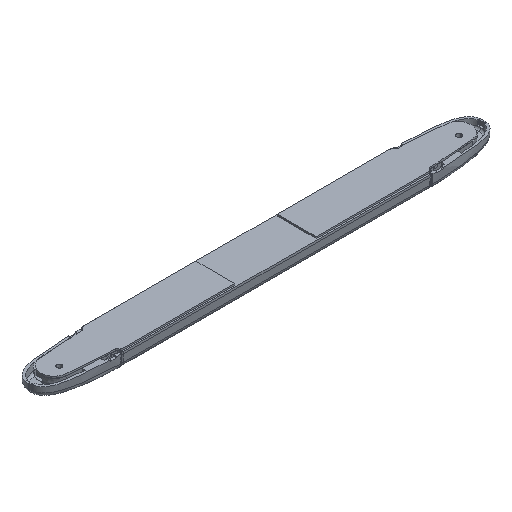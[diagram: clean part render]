
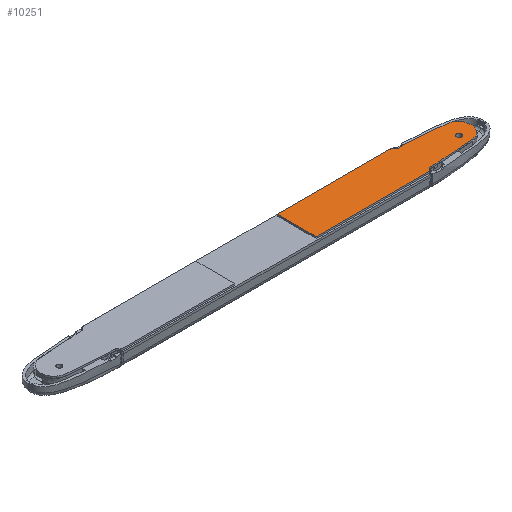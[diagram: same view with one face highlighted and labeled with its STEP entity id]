
A CAD part, isometric view. The second image highlights one B-rep face of the part: STEP entity #10251.
In plain terms, the highlighted planar face has unit normal (0, 0, 1).
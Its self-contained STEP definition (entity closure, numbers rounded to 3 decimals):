
#381=AXIS2_PLACEMENT_3D('Circle Axis2P3D',#379,#380,$) ;
#746=AXIS2_PLACEMENT_3D('Circle Axis2P3D',#744,#745,$) ;
#1078=AXIS2_PLACEMENT_3D('Circle Axis2P3D',#1076,#1077,$) ;
#1727=AXIS2_PLACEMENT_3D('Circle Axis2P3D',#1725,#1726,$) ;
#1758=AXIS2_PLACEMENT_3D('Circle Axis2P3D',#1756,#1757,$) ;
#1848=AXIS2_PLACEMENT_3D('Circle Axis2P3D',#1846,#1847,$) ;
#10206=AXIS2_PLACEMENT_3D('Plane Axis2P3D',#10203,#10204,#10205) ;
#297=CARTESIAN_POINT('Vertex',(101.4,9.953,-5.093)) ;
#300=CARTESIAN_POINT('Line Origine',(102.035,9.902,-5.093)) ;
#304=CARTESIAN_POINT('Vertex',(102.67,9.85,-5.093)) ;
#307=CARTESIAN_POINT('Line Origine',(113.785,8.949,-5.093)) ;
#311=CARTESIAN_POINT('Vertex',(124.9,8.047,-5.093)) ;
#345=CARTESIAN_POINT('Vertex',(97.315,9.953,-5.093)) ;
#348=CARTESIAN_POINT('Line Origine',(99.358,9.953,-5.093)) ;
#376=CARTESIAN_POINT('Vertex',(95.5,11.113,-5.093)) ;
#379=CARTESIAN_POINT('Axis2P3D Location',(97.315,11.953,-5.093)) ;
#736=CARTESIAN_POINT('Vertex',(132.321,0.,-5.093)) ;
#744=CARTESIAN_POINT('Axis2P3D Location',(124.247,0.,-5.093)) ;
#1073=CARTESIAN_POINT('Vertex',(94.139,11.983,-5.093)) ;
#1076=CARTESIAN_POINT('Axis2P3D Location',(94.139,10.483,-5.093)) ;
#1691=CARTESIAN_POINT('Vertex',(25.,-11.983,-5.093)) ;
#1698=CARTESIAN_POINT('Vertex',(94.139,-11.983,-5.093)) ;
#1701=CARTESIAN_POINT('Line Origine',(59.569,-11.983,-5.093)) ;
#1722=CARTESIAN_POINT('Vertex',(95.5,-11.113,-5.093)) ;
#1725=CARTESIAN_POINT('Axis2P3D Location',(94.139,-10.483,-5.093)) ;
#1753=CARTESIAN_POINT('Vertex',(97.315,-9.953,-5.093)) ;
#1756=CARTESIAN_POINT('Axis2P3D Location',(97.315,-11.953,-5.093)) ;
#1785=CARTESIAN_POINT('Vertex',(101.4,-9.953,-5.093)) ;
#1788=CARTESIAN_POINT('Line Origine',(99.358,-9.953,-5.093)) ;
#1821=CARTESIAN_POINT('Vertex',(124.9,-8.047,-5.093)) ;
#1824=CARTESIAN_POINT('Line Origine',(113.785,-8.949,-5.093)) ;
#1828=CARTESIAN_POINT('Vertex',(102.67,-9.85,-5.093)) ;
#1831=CARTESIAN_POINT('Line Origine',(102.035,-9.902,-5.093)) ;
#1846=CARTESIAN_POINT('Axis2P3D Location',(124.247,0.,-5.093)) ;
#1863=CARTESIAN_POINT('Line Origine',(59.569,11.983,-5.093)) ;
#1867=CARTESIAN_POINT('Vertex',(25.,11.983,-5.093)) ;
#1887=CARTESIAN_POINT('Line Origine',(25.,0.,-5.093)) ;
#10080=CARTESIAN_POINT('Vertex',(124.21,-1.27,-5.093)) ;
#10084=CARTESIAN_POINT('Control Point',(124.21,-1.27,-5.093)) ;
#10085=CARTESIAN_POINT('Control Point',(124.026,-0.933,-5.093)) ;
#10086=CARTESIAN_POINT('Control Point',(123.735,-0.653,-5.093)) ;
#10087=CARTESIAN_POINT('Control Point',(123.361,-0.478,-5.093)) ;
#10088=CARTESIAN_POINT('Control Point',(122.759,-0.41,-5.093)) ;
#10089=CARTESIAN_POINT('Control Point',(122.21,-0.611,-5.093)) ;
#10090=CARTESIAN_POINT('Control Point',(122.039,-0.706,-5.093)) ;
#10091=CARTESIAN_POINT('Control Point',(121.586,-1.065,-5.093)) ;
#10092=CARTESIAN_POINT('Control Point',(121.329,-1.606,-5.093)) ;
#10093=CARTESIAN_POINT('Control Point',(121.28,-2.008,-5.093)) ;
#10094=CARTESIAN_POINT('Control Point',(121.358,-2.397,-5.093)) ;
#10095=CARTESIAN_POINT('Control Point',(121.54,-2.73,-5.093)) ;
#10096=CARTESIAN_POINT('Vertex',(121.54,-2.73,-5.093)) ;
#10117=CARTESIAN_POINT('Control Point',(124.21,-1.27,-5.093)) ;
#10118=CARTESIAN_POINT('Control Point',(124.395,-1.608,-5.093)) ;
#10119=CARTESIAN_POINT('Control Point',(124.473,-2.004,-5.093)) ;
#10120=CARTESIAN_POINT('Control Point',(124.418,-2.414,-5.093)) ;
#10121=CARTESIAN_POINT('Control Point',(124.15,-2.957,-5.093)) ;
#10122=CARTESIAN_POINT('Control Point',(123.685,-3.31,-5.093)) ;
#10123=CARTESIAN_POINT('Control Point',(123.512,-3.402,-5.093)) ;
#10124=CARTESIAN_POINT('Control Point',(122.965,-3.59,-5.093)) ;
#10125=CARTESIAN_POINT('Control Point',(122.372,-3.514,-5.093)) ;
#10126=CARTESIAN_POINT('Control Point',(122.006,-3.338,-5.093)) ;
#10127=CARTESIAN_POINT('Control Point',(121.721,-3.062,-5.093)) ;
#10128=CARTESIAN_POINT('Control Point',(121.54,-2.73,-5.093)) ;
#10203=CARTESIAN_POINT('Axis2P3D Location',(0.,0.,-5.093)) ;
#301=DIRECTION('Vector Direction',(0.997,-0.081,0.)) ;
#308=DIRECTION('Vector Direction',(0.997,-0.081,0.)) ;
#349=DIRECTION('Vector Direction',(1.,0.,0.)) ;
#380=DIRECTION('Axis2P3D Direction',(0.,0.,1.)) ;
#745=DIRECTION('Axis2P3D Direction',(0.,0.,1.)) ;
#1077=DIRECTION('Axis2P3D Direction',(0.,0.,1.)) ;
#1702=DIRECTION('Vector Direction',(-1.,0.,0.)) ;
#1726=DIRECTION('Axis2P3D Direction',(0.,0.,1.)) ;
#1757=DIRECTION('Axis2P3D Direction',(0.,0.,1.)) ;
#1789=DIRECTION('Vector Direction',(1.,0.,0.)) ;
#1825=DIRECTION('Vector Direction',(0.997,0.081,0.)) ;
#1832=DIRECTION('Vector Direction',(0.997,0.081,0.)) ;
#1847=DIRECTION('Axis2P3D Direction',(0.,0.,1.)) ;
#1864=DIRECTION('Vector Direction',(-1.,0.,0.)) ;
#1888=DIRECTION('Vector Direction',(0.,1.,0.)) ;
#10204=DIRECTION('Axis2P3D Direction',(0.,0.,1.)) ;
#10205=DIRECTION('Axis2P3D XDirection',(-1.,0.,0.)) ;
#302=VECTOR('Line Direction',#301,1.) ;
#309=VECTOR('Line Direction',#308,1.) ;
#350=VECTOR('Line Direction',#349,1.) ;
#1703=VECTOR('Line Direction',#1702,1.) ;
#1790=VECTOR('Line Direction',#1789,1.) ;
#1826=VECTOR('Line Direction',#1825,1.) ;
#1833=VECTOR('Line Direction',#1832,1.) ;
#1865=VECTOR('Line Direction',#1864,1.) ;
#1889=VECTOR('Line Direction',#1888,1.) ;
#10231=ORIENTED_EDGE('',*,*,#1891,.F.) ;
#10232=ORIENTED_EDGE('',*,*,#1705,.T.) ;
#10233=ORIENTED_EDGE('',*,*,#1729,.T.) ;
#10234=ORIENTED_EDGE('',*,*,#1760,.T.) ;
#10235=ORIENTED_EDGE('',*,*,#1792,.T.) ;
#10236=ORIENTED_EDGE('',*,*,#1835,.T.) ;
#10237=ORIENTED_EDGE('',*,*,#1830,.T.) ;
#10238=ORIENTED_EDGE('',*,*,#1850,.T.) ;
#10239=ORIENTED_EDGE('',*,*,#748,.T.) ;
#10240=ORIENTED_EDGE('',*,*,#313,.F.) ;
#10241=ORIENTED_EDGE('',*,*,#306,.T.) ;
#10242=ORIENTED_EDGE('',*,*,#352,.T.) ;
#10243=ORIENTED_EDGE('',*,*,#383,.T.) ;
#10244=ORIENTED_EDGE('',*,*,#1080,.T.) ;
#10245=ORIENTED_EDGE('',*,*,#1869,.T.) ;
#10248=ORIENTED_EDGE('',*,*,#10129,.T.) ;
#10249=ORIENTED_EDGE('',*,*,#10098,.F.) ;
#10250=FACE_BOUND('',#10247,.T.) ;
#10251=ADVANCED_FACE('Lamp',(#10246,#10250),#10207,.T.) ;
#10083=B_SPLINE_CURVE_WITH_KNOTS('',5,(#10084,#10085,#10086,#10087,#10088,#10089,#10090,#10091,#10092,#10093,#10094,#10095),.UNSPECIFIED.,.F.,.U.,(6,3,3,6),(0.,2.838,4.258,7.051),.UNSPECIFIED.) ;
#10116=B_SPLINE_CURVE_WITH_KNOTS('',5,(#10117,#10118,#10119,#10120,#10121,#10122,#10123,#10124,#10125,#10126,#10127,#10128),.UNSPECIFIED.,.F.,.U.,(6,3,3,6),(0.,2.838,4.258,7.051),.UNSPECIFIED.) ;
#382=CIRCLE('generated circle',#381,2.) ;
#747=CIRCLE('generated circle',#746,8.074) ;
#1079=CIRCLE('generated circle',#1078,1.5) ;
#1728=CIRCLE('generated circle',#1727,1.5) ;
#1759=CIRCLE('generated circle',#1758,2.) ;
#1849=CIRCLE('generated circle',#1848,8.074) ;
#306=EDGE_CURVE('',#305,#298,#303,.F.) ;
#313=EDGE_CURVE('',#305,#312,#310,.T.) ;
#352=EDGE_CURVE('',#298,#346,#351,.F.) ;
#383=EDGE_CURVE('',#346,#377,#382,.F.) ;
#748=EDGE_CURVE('',#737,#312,#747,.T.) ;
#1080=EDGE_CURVE('',#377,#1074,#1079,.T.) ;
#1705=EDGE_CURVE('',#1692,#1699,#1704,.F.) ;
#1729=EDGE_CURVE('',#1699,#1723,#1728,.T.) ;
#1760=EDGE_CURVE('',#1723,#1754,#1759,.F.) ;
#1792=EDGE_CURVE('',#1754,#1786,#1791,.T.) ;
#1830=EDGE_CURVE('',#1829,#1822,#1827,.T.) ;
#1835=EDGE_CURVE('',#1786,#1829,#1834,.T.) ;
#1850=EDGE_CURVE('',#1822,#737,#1849,.T.) ;
#1869=EDGE_CURVE('',#1074,#1868,#1866,.T.) ;
#1891=EDGE_CURVE('',#1692,#1868,#1890,.T.) ;
#10098=EDGE_CURVE('',#10081,#10097,#10083,.T.) ;
#10129=EDGE_CURVE('',#10081,#10097,#10116,.T.) ;
#10230=EDGE_LOOP('',(#10231,#10232,#10233,#10234,#10235,#10236,#10237,#10238,#10239,#10240,#10241,#10242,#10243,#10244,#10245)) ;
#10247=EDGE_LOOP('',(#10248,#10249)) ;
#10246=FACE_OUTER_BOUND('',#10230,.T.) ;
#303=LINE('Line',#300,#302) ;
#310=LINE('Line',#307,#309) ;
#351=LINE('Line',#348,#350) ;
#1704=LINE('Line',#1701,#1703) ;
#1791=LINE('Line',#1788,#1790) ;
#1827=LINE('Line',#1824,#1826) ;
#1834=LINE('Line',#1831,#1833) ;
#1866=LINE('Line',#1863,#1865) ;
#1890=LINE('Line',#1887,#1889) ;
#10207=PLANE('',#10206) ;
#298=VERTEX_POINT('',#297) ;
#305=VERTEX_POINT('',#304) ;
#312=VERTEX_POINT('',#311) ;
#346=VERTEX_POINT('',#345) ;
#377=VERTEX_POINT('',#376) ;
#737=VERTEX_POINT('',#736) ;
#1074=VERTEX_POINT('',#1073) ;
#1692=VERTEX_POINT('',#1691) ;
#1699=VERTEX_POINT('',#1698) ;
#1723=VERTEX_POINT('',#1722) ;
#1754=VERTEX_POINT('',#1753) ;
#1786=VERTEX_POINT('',#1785) ;
#1822=VERTEX_POINT('',#1821) ;
#1829=VERTEX_POINT('',#1828) ;
#1868=VERTEX_POINT('',#1867) ;
#10081=VERTEX_POINT('',#10080) ;
#10097=VERTEX_POINT('',#10096) ;
